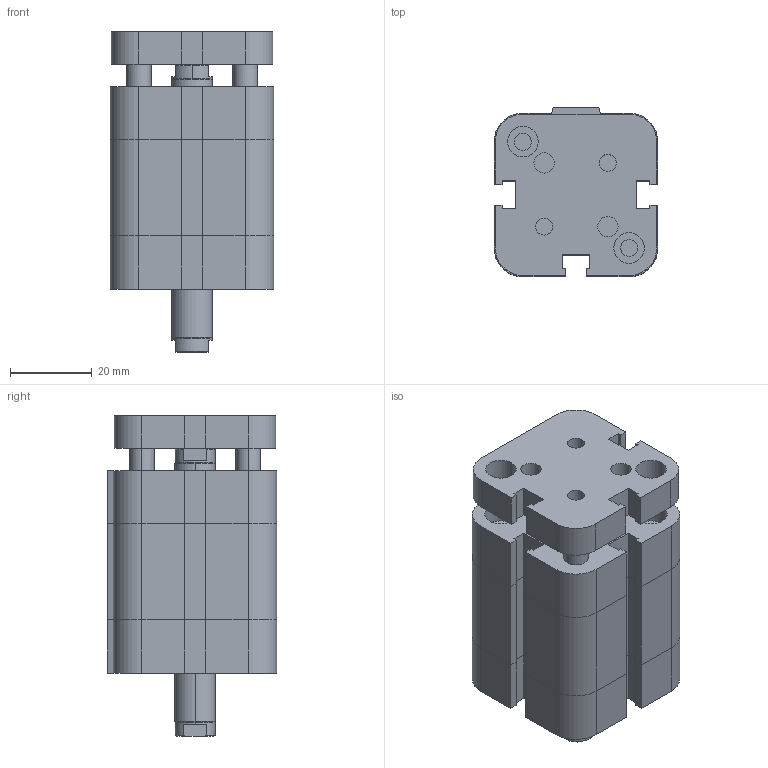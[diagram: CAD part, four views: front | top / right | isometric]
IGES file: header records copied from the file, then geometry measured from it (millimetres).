
Global section: file name: No Iges File Name specified; native system: Autodesk Inventor 2009; preprocessor: AutoDesk Inventor Iges Exporter R2009; author: maffial1; date: 20090420.202018; units: millimetre
Bounding box: 40 x 41.5 x 78.5 mm (x, y, z)
Volume: 82771.3 mm3; surface area: 24855.5 mm2
Topology: 2 solids, 2 shells, 241 faces, 570 edges, 354 vertices
Faces by surface type: plane 135, bspline 72, cylinder 26, cone 8
